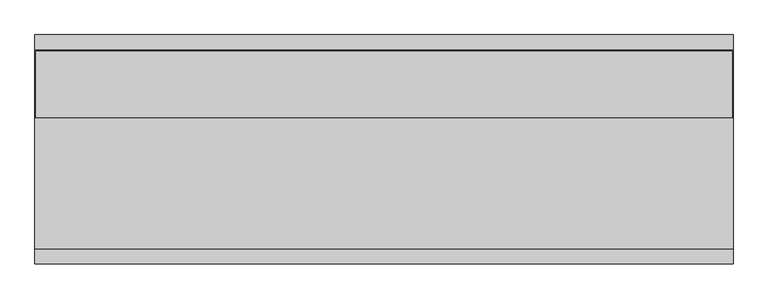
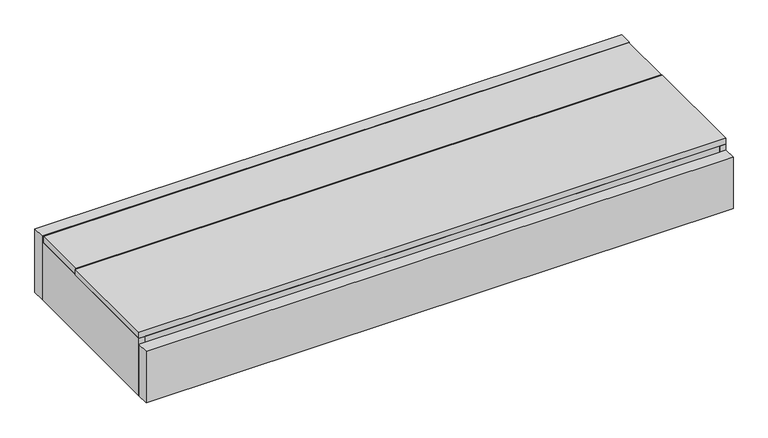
"""IFC4 building model written with IfcOpenShell, lengths in millimetres: proxy geometry, FOUNDATION^OPEN OFFICE 2_8x23x70 WIRE WALL LT-PARTS SOLID."""

from ifc_helpers import new_model, si_unit, frame, origin, place, context, project, spatial, polyline, outline, extrude, source, transform, mapped, element, save


def generic_models_8afcf306(model_context):
    return source(origin(), model_context, "Body", "SweptSolid", [
        extrude(outline(polyline([(1758.95, -488.95), (1758.95, -508.0), (19.05, -508.0), (19.05, -488.95), (1758.95, -488.95)])), frame((0.0, 0.0, -203.2), z_axis=(0.0, 0.0, 1.0), x_axis=(1.0, 0.0, 0.0)), (0.0, 0.0, 1.0), 184.15),
        extrude(outline(polyline([(0.0, -508.0), (1778.0, -508.0), (1778.0, -546.1), (0.0, -546.1), (0.0, -508.0)])), frame((0.0, 0.0, -203.2), z_axis=(0.0, 0.0, 1.0), x_axis=(1.0, 0.0, 0.0)), (0.0, 0.0, 1.0), 165.1),
        extrude(outline(polyline([(1778.0, -508.0), (1758.95, -508.0), (1758.95, 0.0), (1778.0, 0.0), (1778.0, -508.0)])), frame((0.0, 0.0, -203.2), z_axis=(0.0, 0.0, 1.0), x_axis=(1.0, 0.0, 0.0)), (0.0, 0.0, 1.0), 184.15),
        extrude(outline(polyline([(1775.61875, -3.175), (1775.61875, -172.24375), (2.38125, -172.24375), (2.38125, -3.175), (1775.61875, -3.175)])), frame((0.0, 0.0, -19.05), z_axis=(0.0, 0.0, 1.0), x_axis=(1.0, 0.0, 0.0)), (0.0, 0.0, 1.0), 19.05),
        extrude(outline(polyline([(1778.0, 0.0), (0.0, 0.0), (0.0, 38.1), (1778.0, 38.1), (1778.0, 0.0)])), frame((0.0, 0.0, -203.2), z_axis=(0.0, 0.0, 1.0), x_axis=(1.0, 0.0, 0.0)), (0.0, 0.0, 1.0), 203.2),
        extrude(outline(polyline([(1778.0, -174.625), (1778.0, -508.0), (0.0, -508.0), (0.0, -174.625), (1778.0, -174.625)])), frame((0.0, 0.0, -19.05), z_axis=(0.0, 0.0, 1.0), x_axis=(1.0, 0.0, 0.0)), (0.0, 0.0, 1.0), 19.05),
        extrude(outline(polyline([(0.0, 0.0), (19.05, 0.0), (19.05, -508.0), (0.0, -508.0), (0.0, 0.0)])), frame((0.0, 0.0, -203.2), z_axis=(0.0, 0.0, 1.0), x_axis=(1.0, 0.0, 0.0)), (0.0, 0.0, 1.0), 184.15),
    ])


if __name__ == "__main__":
    model = new_model("IFC4")
    model_context = context("Model", 3, world=origin())
    ifc_project = project(units=[si_unit("LENGTHUNIT", "METRE", prefix="MILLI")], contexts=[model_context])
    site = spatial("IfcSite", under=ifc_project)
    building = spatial("IfcBuilding", under=site)
    placement = place(None, origin())
    generic_models_shape = generic_models_8afcf306(model_context)
    element("IfcBuildingElementProxy", 1, Name="FOUNDATION^OPEN OFFICE 2_8x23x70 WIRE WALL LT-PARTS SOLID", ObjectType="FOUNDATION^OPEN OFFICE 2_8x23x70 WIRE WALL LT-PARTS SOLID", at=placement, inside=building, context=model_context, shape_type="MappedRepresentation", body=[
        mapped(generic_models_shape, transform((0.0, 0.0, 0.0), x_axis=(1.0, 0.0, 0.0), y_axis=(0.0, 1.0, 0.0), z_axis=(0.0, 0.0, 1.0))),
    ])
    save(model, "model.ifc")
